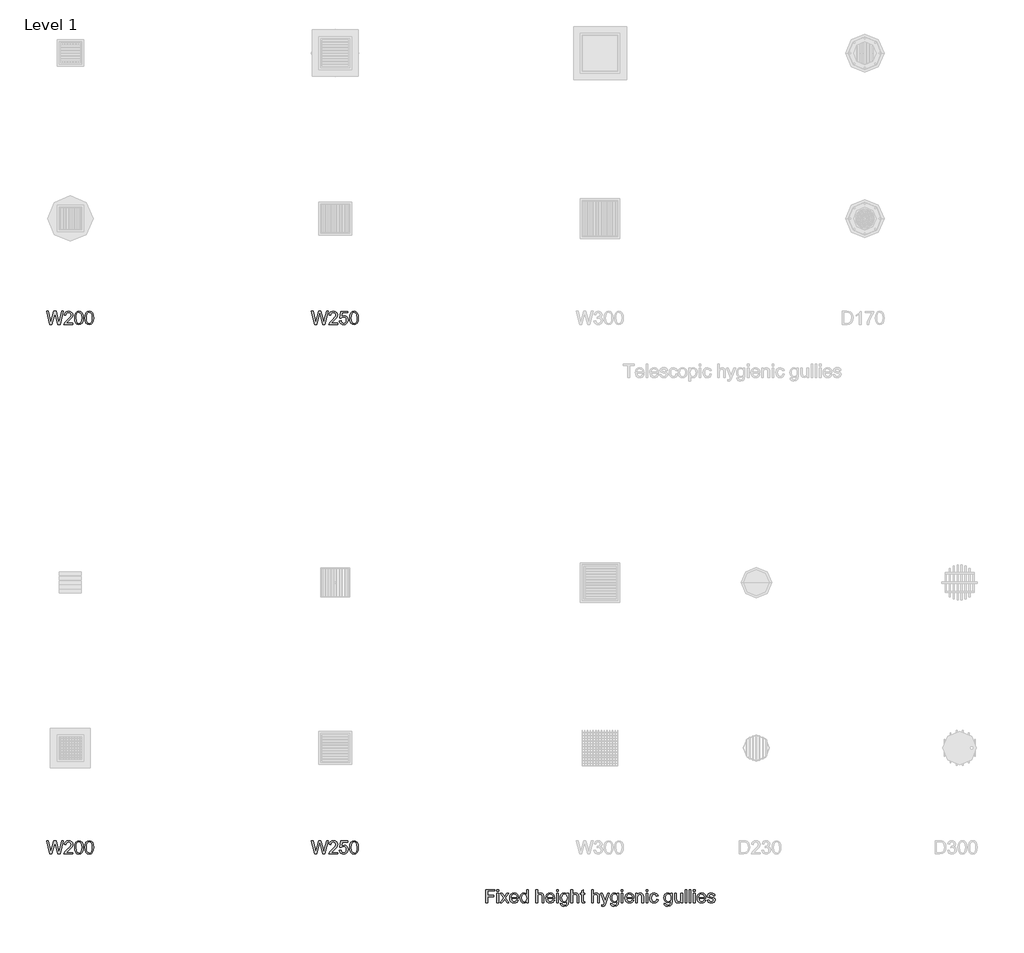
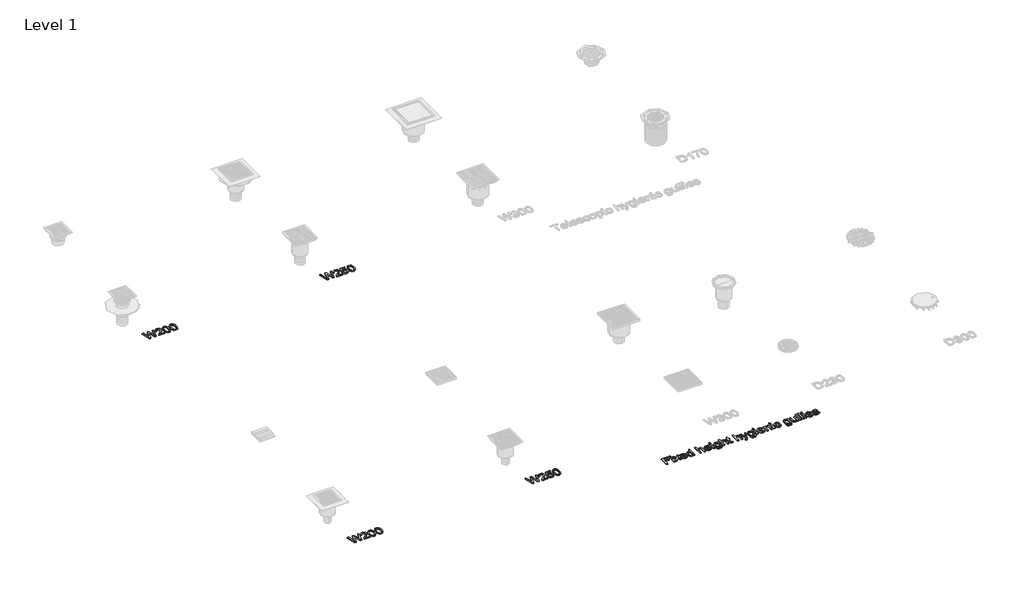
# One storey, part 2 of 5: 5 proxies.
"""IFC4 building model written with IfcOpenShell, lengths in millimetres."""

from ifc_helpers import new_model, si_unit, origin, origin_with_axes, place, context, project, spatial, polyline, outline, extrude, element, save

model = new_model("IFC4")

# Units and contexts
model_context = context("Model", 3, world=origin())
ifc_project = project(units=[si_unit("LENGTHUNIT", "METRE", prefix="MILLI")], contexts=[model_context])

# Site, building, storey
site = spatial("IfcSite", under=ifc_project)
building = spatial("IfcBuilding", under=site)
storey = spatial("IfcBuildingStorey", under=building, Name="Level 1", Elevation=0.0)

# Proxies
placement = place(None, origin())
element("IfcBuildingElementProxy", 1, Name="100mm ACO", ObjectType="100mm ACO", at=placement, inside=storey, context=model_context, shape_type="SweptSolid", body=[
    extrude(outline(polyline([(-795.3703704, -6880.4284145), (-849.0740741, -6880.4284145), (-849.0740741, -6911.909896), (-802.7777778, -6911.909896), (-802.7777778, -6923.0210071), (-849.0740741, -6923.0210071), (-849.0740741, -6969.3173034), (-862.037037, -6969.3173034), (-862.037037, -6869.3173034), (-795.3703704, -6869.3173034), (-795.3703704, -6880.4284145)])), origin_with_axes(), (0.0, 0.0, 1.0), 10.0),
    extrude(outline(polyline([(-765.7407407, -6969.3173034), (-778.7037037, -6969.3173034), (-778.7037037, -6897.0950812), (-765.7407407, -6897.0950812), (-765.7407407, -6969.3173034)])), origin_with_axes(), (0.0, 0.0, 1.0), 10.0),
    extrude(outline(polyline([(-765.7407407, -6882.2802664), (-778.7037037, -6882.2802664), (-778.7037037, -6869.3173034), (-765.7407407, -6869.3173034), (-765.7407407, -6882.2802664)])), origin_with_axes(), (0.0, 0.0, 1.0), 10.0),
    extrude(outline(polyline([(-687.962963, -6969.3173034), (-701.0127315, -6969.3173034), (-721.2673611, -6941.0186923), (-741.5219907, -6969.3173034), (-754.6296296, -6969.3173034), (-727.8645833, -6931.904109), (-752.7777778, -6897.0950812), (-739.7280093, -6897.0950812), (-721.3252315, -6922.7605905), (-702.9513889, -6897.0950812), (-689.8148148, -6897.0950812), (-714.7569444, -6931.9330442), (-687.962963, -6969.3173034)])), origin_with_axes(), (0.0, 0.0, 1.0), 10.0),
    extrude(outline(polyline([(-615.7407407, -6935.9839701), (-669.4444444, -6935.9839701), (-667.3719618, -6947.1095488), (-662.6591435, -6955.2548034), (-655.8774595, -6960.2461229), (-647.5983796, -6961.909896), (-635.9230324, -6958.2206599), (-628.7037037, -6947.0950812), (-615.7407407, -6948.5997108), (-620.1171875, -6958.2206599), (-627.0543981, -6965.3242479), (-636.2991898, -6969.7079284), (-647.5983796, -6971.1691553), (-662.1853299, -6968.6626449), (-673.1915509, -6961.1431136), (-680.1034433, -6949.2833046), (-682.4074074, -6933.7559608), (-680.1866319, -6918.2177664), (-673.5243056, -6905.9203127), (-662.8255208, -6897.9125002), (-648.4953704, -6895.2432293), (-633.275463, -6898.700984), (-620.8478009, -6910.4776043), (-617.0175058, -6921.0136287), (-615.7407407, -6935.9839701)]), holes=[polyline([(-628.7037037, -6926.7247108), (-630.787037, -6916.5684608), (-635.5324074, -6909.7108219), (-648.8136574, -6904.5024886), (-656.6695602, -6906.050521), (-662.9918981, -6910.6946182), (-669.4444444, -6926.7247108), (-628.7037037, -6926.7247108)])]), origin_with_axes(), (0.0, 0.0, 1.0), 10.0),
    extrude(outline(polyline([(-541.6666667, -6969.3173034), (-554.6296296, -6969.3173034), (-554.6296296, -6961.1575812), (-562.9846644, -6968.6662618), (-574.3634259, -6971.1691553), (-586.2304688, -6968.5288196), (-595.9635417, -6960.6078127), (-602.4631076, -6948.4767363), (-604.6296296, -6933.2061923), (-602.5535301, -6917.4654516), (-596.3252315, -6905.4284145), (-586.6898148, -6897.7895256), (-574.3923611, -6895.2432293), (-563.1076389, -6897.529109), (-554.8900463, -6904.3867479), (-554.6296296, -6869.3173034), (-541.6666667, -6869.3173034), (-541.6666667, -6969.3173034)]), holes=[polyline([(-572.8587963, -6961.909896), (-565.8058449, -6960.2027201), (-559.9247685, -6955.0811923), (-555.9534144, -6946.4874423), (-554.6296296, -6934.3635997), (-559.4762731, -6912.6043405), (-565.375434, -6906.5279516), (-573.3796296, -6904.5024886), (-581.3259549, -6906.4845488), (-587.0515046, -6912.4307293), (-591.6666667, -6933.2351275), (-589.1782407, -6948.9903358), (-582.2337963, -6958.6691553), (-572.8587963, -6961.909896)])]), origin_with_axes(), (0.0, 0.0, 1.0), 10.0),
    extrude(outline(polyline([(-425.0, -6969.3173034), (-437.962963, -6969.3173034), (-437.962963, -6922.6159145), (-441.6521991, -6909.0308451), (-452.662037, -6904.5024886), (-465.5960648, -6909.8410303), (-469.8712384, -6917.273756), (-471.2962963, -6928.8948497), (-471.2962963, -6969.3173034), (-484.2592593, -6969.3173034), (-484.2592593, -6869.3173034), (-471.2962963, -6869.3173034), (-471.2962963, -6905.1390627), (-461.5957755, -6897.7171877), (-449.7395833, -6895.2432293), (-436.4583333, -6898.1078127), (-427.5607639, -6906.9185766), (-425.0, -6923.4260997), (-425.0, -6969.3173034)])), origin_with_axes(), (0.0, 0.0, 1.0), 10.0),
    extrude(outline(polyline([(-343.5185185, -6935.9839701), (-397.2222222, -6935.9839701), (-395.1497396, -6947.1095488), (-390.4369213, -6955.2548034), (-383.6552373, -6960.2461229), (-375.3761574, -6961.909896), (-363.7008102, -6958.2206599), (-356.4814815, -6947.0950812), (-343.5185185, -6948.5997108), (-347.8949653, -6958.2206599), (-354.8321759, -6965.3242479), (-364.0769676, -6969.7079284), (-375.3761574, -6971.1691553), (-389.9631076, -6968.6626449), (-400.9693287, -6961.1431136), (-407.8812211, -6949.2833046), (-410.1851852, -6933.7559608), (-407.9644097, -6918.2177664), (-401.3020833, -6905.9203127), (-390.6032986, -6897.9125002), (-376.2731481, -6895.2432293), (-361.0532407, -6898.700984), (-348.6255787, -6910.4776043), (-344.7952836, -6921.0136287), (-343.5185185, -6935.9839701)]), holes=[polyline([(-356.4814815, -6926.7247108), (-358.5648148, -6916.5684608), (-363.3101852, -6909.7108219), (-376.5914352, -6904.5024886), (-384.447338, -6906.050521), (-390.7696759, -6910.6946182), (-397.2222222, -6926.7247108), (-356.4814815, -6926.7247108)])]), origin_with_axes(), (0.0, 0.0, 1.0), 10.0),
    extrude(outline(polyline([(-315.7407407, -6969.3173034), (-328.7037037, -6969.3173034), (-328.7037037, -6897.0950812), (-315.7407407, -6897.0950812), (-315.7407407, -6969.3173034)])), origin_with_axes(), (0.0, 0.0, 1.0), 10.0),
    extrude(outline(polyline([(-315.7407407, -6882.2802664), (-328.7037037, -6882.2802664), (-328.7037037, -6869.3173034), (-315.7407407, -6869.3173034), (-315.7407407, -6882.2802664)])), origin_with_axes(), (0.0, 0.0, 1.0), 10.0),
    extrude(outline(polyline([(-237.962963, -6958.6691553), (-241.015625, -6981.3109377), (-251.880787, -6992.9428821), (-270.5439815, -6997.0950812), (-281.7599826, -6995.6881078), (-290.9288194, -6991.4671877), (-297.0377604, -6984.0416958), (-299.0740741, -6973.0210071), (-286.1111111, -6975.0754053), (-281.5393519, -6984.638484), (-270.3414352, -6987.8358219), (-257.03125, -6984.1465858), (-251.8663194, -6975.1622108), (-250.9259259, -6960.5499423), (-259.7005208, -6967.1254631), (-270.5150463, -6969.3173034), (-282.9065394, -6966.705903), (-292.5925926, -6958.8717016), (-298.8425926, -6947.0589122), (-300.9259259, -6932.5117479), (-298.9438657, -6917.8705442), (-292.9976852, -6905.8913775), (-283.5503472, -6897.9052664), (-271.0648148, -6895.2432293), (-259.9898727, -6897.6231483), (-251.1863426, -6904.7629053), (-250.9259259, -6897.0950812), (-237.962963, -6897.0950812), (-237.962963, -6958.6691553)]), holes=[polyline([(-268.5763889, -6960.0580442), (-261.364294, -6958.4521414), (-255.005787, -6953.634433), (-250.5570023, -6945.040683), (-249.0740741, -6932.1066553), (-250.4882813, -6920.3191842), (-254.7309028, -6911.6350118), (-261.0568576, -6906.2856194), (-268.7210648, -6904.5024886), (-276.4431424, -6906.3290222), (-282.5954861, -6911.8086229), (-286.6210938, -6920.4638601), (-287.962963, -6931.8173034), (-286.5559896, -6944.5343173), (-282.3350694, -6953.2872108), (-276.0814525, -6958.3653358), (-268.5763889, -6960.0580442)])]), origin_with_axes(), (0.0, 0.0, 1.0), 10.0),
    extrude(outline(polyline([(-160.1851852, -6969.3173034), (-173.1481481, -6969.3173034), (-173.1481481, -6922.6159145), (-176.8373843, -6909.0308451), (-187.8472222, -6904.5024886), (-200.78125, -6909.8410303), (-205.0564236, -6917.273756), (-206.4814815, -6928.8948497), (-206.4814815, -6969.3173034), (-219.4444444, -6969.3173034), (-219.4444444, -6869.3173034), (-206.4814815, -6869.3173034), (-206.4814815, -6905.1390627), (-196.7809606, -6897.7171877), (-184.9247685, -6895.2432293), (-171.6435185, -6898.1078127), (-162.7459491, -6906.9185766), (-160.1851852, -6923.4260997), (-160.1851852, -6969.3173034)])), origin_with_axes(), (0.0, 0.0, 1.0), 10.0),
    extrude(outline(polyline([(-113.8888889, -6970.3300349), (-122.974537, -6971.1691553), (-134.5630787, -6968.2901043), (-139.0046296, -6960.9839701), (-139.8148148, -6948.6575812), (-139.8148148, -6906.3543405), (-149.0740741, -6906.3543405), (-149.0740741, -6897.0950812), (-139.8148148, -6897.0950812), (-139.8148148, -6878.7501738), (-126.8518519, -6871.1691553), (-126.8518519, -6897.0950812), (-115.7407407, -6897.0950812), (-115.7407407, -6906.3543405), (-126.8518519, -6906.3543405), (-126.8518519, -6951.2617479), (-125.8101852, -6959.4793405), (-120.5150463, -6961.909896), (-115.4803241, -6961.909896), (-113.8888889, -6970.3300349)])), origin_with_axes(), (0.0, 0.0, 1.0), 10.0),
    extrude(outline(polyline([(-4.6296296, -6969.3173034), (-17.5925926, -6969.3173034), (-17.5925926, -6922.6159145), (-21.2818287, -6909.0308451), (-32.2916667, -6904.5024886), (-45.2256944, -6909.8410303), (-49.5008681, -6917.273756), (-50.9259259, -6928.8948497), (-50.9259259, -6969.3173034), (-63.8888889, -6969.3173034), (-63.8888889, -6869.3173034), (-50.9259259, -6869.3173034), (-50.9259259, -6905.1390627), (-41.2254051, -6897.7171877), (-29.369213, -6895.2432293), (-16.087963, -6898.1078127), (-7.1903935, -6906.9185766), (-4.6296296, -6923.4260997), (-4.6296296, -6969.3173034)])), origin_with_axes(), (0.0, 0.0, 1.0), 10.0),
    extrude(outline(polyline([(71.2962963, -6897.0950812), (44.1261574, -6971.2559608), (35.083912, -6990.5991321), (28.9966725, -6995.4710939), (20.775463, -6997.0950812), (13.1944444, -6995.9376738), (12.037037, -6985.9839701), (18.5763889, -6987.8358219), (27.4305556, -6983.8717016), (33.3043981, -6970.3879053), (6.4814815, -6897.0950812), (18.2002315, -6897.0950812), (35.8217593, -6943.1888312), (39.1493056, -6954.1263312), (44.068287, -6940.4399886), (59.6064815, -6897.0950812), (71.2962963, -6897.0950812)])), origin_with_axes(), (0.0, 0.0, 1.0), 10.0),
    extrude(outline(polyline([(141.6666667, -6958.6691553), (138.6140046, -6981.3109377), (127.7488426, -6992.9428821), (109.0856481, -6997.0950812), (97.869647, -6995.6881078), (88.7008102, -6991.4671877), (82.5918692, -6984.0416958), (80.5555556, -6973.0210071), (93.5185185, -6975.0754053), (98.0902778, -6984.638484), (109.2881944, -6987.8358219), (122.5983796, -6984.1465858), (127.7633102, -6975.1622108), (128.7037037, -6960.5499423), (119.9291088, -6967.1254631), (109.1145833, -6969.3173034), (96.7230903, -6966.705903), (87.037037, -6958.8717016), (80.787037, -6947.0589122), (78.7037037, -6932.5117479), (80.6857639, -6917.8705442), (86.6319444, -6905.8913775), (96.0792824, -6897.9052664), (108.5648148, -6895.2432293), (119.6397569, -6897.6231483), (128.443287, -6904.7629053), (128.7037037, -6897.0950812), (141.6666667, -6897.0950812), (141.6666667, -6958.6691553)]), holes=[polyline([(111.0532407, -6960.0580442), (118.2653356, -6958.4521414), (124.6238426, -6953.634433), (129.0726273, -6945.040683), (130.5555556, -6932.1066553), (129.1413484, -6920.3191842), (124.8987269, -6911.6350118), (118.572772, -6906.2856194), (110.9085648, -6904.5024886), (103.1864873, -6906.3290222), (97.0341435, -6911.8086229), (93.0085359, -6920.4638601), (91.6666667, -6931.8173034), (93.07364, -6944.5343173), (97.2945602, -6953.2872108), (103.5481771, -6958.3653358), (111.0532407, -6960.0580442)])]), origin_with_axes(), (0.0, 0.0, 1.0), 10.0),
    extrude(outline(polyline([(173.1481481, -6969.3173034), (160.1851852, -6969.3173034), (160.1851852, -6897.0950812), (173.1481481, -6897.0950812), (173.1481481, -6969.3173034)])), origin_with_axes(), (0.0, 0.0, 1.0), 10.0),
    extrude(outline(polyline([(173.1481481, -6882.2802664), (160.1851852, -6882.2802664), (160.1851852, -6869.3173034), (173.1481481, -6869.3173034), (173.1481481, -6882.2802664)])), origin_with_axes(), (0.0, 0.0, 1.0), 10.0),
    extrude(outline(polyline([(254.6296296, -6935.9839701), (200.9259259, -6935.9839701), (202.9984086, -6947.1095488), (207.7112269, -6955.2548034), (214.4929109, -6960.2461229), (222.7719907, -6961.909896), (234.447338, -6958.2206599), (241.6666667, -6947.0950812), (254.6296296, -6948.5997108), (250.2531829, -6958.2206599), (243.3159722, -6965.3242479), (234.0711806, -6969.7079284), (222.7719907, -6971.1691553), (208.1850405, -6968.6626449), (197.1788194, -6961.1431136), (190.2669271, -6949.2833046), (187.962963, -6933.7559608), (190.1837384, -6918.2177664), (196.8460648, -6905.9203127), (207.5448495, -6897.9125002), (221.875, -6895.2432293), (237.0949074, -6898.700984), (249.5225694, -6910.4776043), (253.3528646, -6921.0136287), (254.6296296, -6935.9839701)]), holes=[polyline([(241.6666667, -6926.7247108), (239.5833333, -6916.5684608), (234.837963, -6909.7108219), (221.556713, -6904.5024886), (213.7008102, -6906.050521), (207.3784722, -6910.6946182), (200.9259259, -6926.7247108), (241.6666667, -6926.7247108)])]), origin_with_axes(), (0.0, 0.0, 1.0), 10.0),
    extrude(outline(polyline([(328.7037037, -6969.3173034), (315.7407407, -6969.3173034), (315.7407407, -6924.3520256), (311.8778935, -6908.7559608), (301.1284722, -6904.5024886), (291.1024306, -6907.222396), (284.3894676, -6914.8902201), (282.4074074, -6928.8948497), (282.4074074, -6969.3173034), (269.4444444, -6969.3173034), (269.4444444, -6897.0950812), (280.5555556, -6897.0950812), (280.5555556, -6907.1355905), (290.4513889, -6898.2090858), (303.7037037, -6895.2432293), (315.0752315, -6897.2976275), (323.8715278, -6903.4463543), (327.8790509, -6912.1847803), (328.7037037, -6924.728183), (328.7037037, -6969.3173034)])), origin_with_axes(), (0.0, 0.0, 1.0), 10.0),
    extrude(outline(polyline([(360.1851852, -6969.3173034), (347.2222222, -6969.3173034), (347.2222222, -6897.0950812), (360.1851852, -6897.0950812), (360.1851852, -6969.3173034)])), origin_with_axes(), (0.0, 0.0, 1.0), 10.0),
    extrude(outline(polyline([(360.1851852, -6882.2802664), (347.2222222, -6882.2802664), (347.2222222, -6869.3173034), (360.1851852, -6869.3173034), (360.1851852, -6882.2802664)])), origin_with_axes(), (0.0, 0.0, 1.0), 10.0),
    extrude(outline(polyline([(439.8148148, -6944.8670719), (435.7855903, -6956.6726275), (428.6168981, -6964.8323497), (419.2925347, -6969.5849539), (408.7962963, -6971.1691553), (394.4806134, -6968.5794562), (383.8252315, -6960.810359), (377.2063079, -6948.7660881), (375.0, -6933.3508682), (380.0347222, -6910.665683), (392.6359954, -6898.700984), (408.5358796, -6895.2432293), (427.9947917, -6900.900058), (434.5305266, -6907.8842884), (437.962963, -6917.5233219), (425.0, -6919.3173034), (419.0972222, -6908.2206599), (408.6805556, -6904.5024886), (399.7251157, -6906.3868925), (393.2291667, -6912.0401043), (389.2795139, -6921.071499), (387.962963, -6933.0904516), (389.2831308, -6945.3191842), (393.2436343, -6954.4012155), (399.6925637, -6960.0327259), (408.4780093, -6961.909896), (421.0792824, -6957.2802664), (426.8518519, -6943.3913775), (439.8148148, -6944.8670719)])), origin_with_axes(), (0.0, 0.0, 1.0), 10.0),
    extrude(outline(polyline([(545.3703704, -6958.6691553), (542.3177083, -6981.3109377), (531.4525463, -6992.9428821), (512.7893519, -6997.0950812), (501.5733507, -6995.6881078), (492.4045139, -6991.4671877), (486.2955729, -6984.0416958), (484.2592593, -6973.0210071), (497.2222222, -6975.0754053), (501.7939815, -6984.638484), (512.9918981, -6987.8358219), (526.3020833, -6984.1465858), (531.4670139, -6975.1622108), (532.4074074, -6960.5499423), (523.6328125, -6967.1254631), (512.818287, -6969.3173034), (500.426794, -6966.705903), (490.7407407, -6958.8717016), (484.4907407, -6947.0589122), (482.4074074, -6932.5117479), (484.3894676, -6917.8705442), (490.3356481, -6905.8913775), (499.7829861, -6897.9052664), (512.2685185, -6895.2432293), (523.3434606, -6897.6231483), (532.1469907, -6904.7629053), (532.4074074, -6897.0950812), (545.3703704, -6897.0950812), (545.3703704, -6958.6691553)]), holes=[polyline([(514.7569444, -6960.0580442), (521.9690394, -6958.4521414), (528.3275463, -6953.634433), (532.776331, -6945.040683), (534.2592593, -6932.1066553), (532.8450521, -6920.3191842), (528.6024306, -6911.6350118), (522.2764757, -6906.2856194), (514.6122685, -6904.5024886), (506.890191, -6906.3290222), (500.7378472, -6911.8086229), (496.7122396, -6920.4638601), (495.3703704, -6931.8173034), (496.7773437, -6944.5343173), (500.9982639, -6953.2872108), (507.2518808, -6958.3653358), (514.7569444, -6960.0580442)])]), origin_with_axes(), (0.0, 0.0, 1.0), 10.0),
    extrude(outline(polyline([(623.1481481, -6969.3173034), (612.037037, -6969.3173034), (612.037037, -6958.8138312), (601.7939815, -6968.0803243), (588.8310185, -6971.1691553), (574.7106481, -6967.6535303), (566.0590278, -6957.9747108), (563.8888889, -6941.9735534), (563.8888889, -6897.0950812), (576.8518519, -6897.0950812), (576.8518519, -6938.0673034), (577.7488426, -6952.1587386), (582.4363426, -6959.1610534), (591.4641204, -6961.909896), (604.2100694, -6956.9909145), (608.6914062, -6949.4388312), (610.1851852, -6936.6205442), (610.1851852, -6897.0950812), (623.1481481, -6897.0950812), (623.1481481, -6969.3173034)])), origin_with_axes(), (0.0, 0.0, 1.0), 10.0),
    extrude(outline(polyline([(654.6296296, -6969.3173034), (641.6666667, -6969.3173034), (641.6666667, -6869.3173034), (654.6296296, -6869.3173034), (654.6296296, -6969.3173034)])), origin_with_axes(), (0.0, 0.0, 1.0), 10.0),
    extrude(outline(polyline([(686.1111111, -6969.3173034), (673.1481481, -6969.3173034), (673.1481481, -6869.3173034), (686.1111111, -6869.3173034), (686.1111111, -6969.3173034)])), origin_with_axes(), (0.0, 0.0, 1.0), 10.0),
    extrude(outline(polyline([(717.5925926, -6882.2802664), (704.6296296, -6882.2802664), (704.6296296, -6869.3173034), (717.5925926, -6869.3173034), (717.5925926, -6882.2802664)])), origin_with_axes(), (0.0, 0.0, 1.0), 10.0),
    extrude(outline(polyline([(717.5925926, -6969.3173034), (704.6296296, -6969.3173034), (704.6296296, -6897.0950812), (717.5925926, -6897.0950812), (717.5925926, -6969.3173034)])), origin_with_axes(), (0.0, 0.0, 1.0), 10.0),
    extrude(outline(polyline([(799.0740741, -6935.9839701), (745.3703704, -6935.9839701), (747.442853, -6947.1095488), (752.1556713, -6955.2548034), (758.9373553, -6960.2461229), (767.2164352, -6961.909896), (778.8917824, -6958.2206599), (786.1111111, -6947.0950812), (799.0740741, -6948.5997108), (794.6976273, -6958.2206599), (787.7604167, -6965.3242479), (778.515625, -6969.7079284), (767.2164352, -6971.1691553), (752.629485, -6968.6626449), (741.6232639, -6961.1431136), (734.7113715, -6949.2833046), (732.4074074, -6933.7559608), (734.6281829, -6918.2177664), (741.2905093, -6905.9203127), (751.989294, -6897.9125002), (766.3194444, -6895.2432293), (781.5393519, -6898.700984), (793.9670139, -6910.4776043), (797.797309, -6921.0136287), (799.0740741, -6935.9839701)]), holes=[polyline([(786.1111111, -6926.7247108), (784.0277778, -6916.5684608), (779.2824074, -6909.7108219), (766.0011574, -6904.5024886), (758.1452546, -6906.050521), (751.8229167, -6910.6946182), (745.3703704, -6926.7247108), (786.1111111, -6926.7247108)])]), origin_with_axes(), (0.0, 0.0, 1.0), 10.0),
    extrude(outline(polyline([(854.6296296, -6917.4654516), (849.8408565, -6907.7432293), (838.7731481, -6904.5024886), (827.4594907, -6907.2802664), (823.1481481, -6915.353183), (825.9982639, -6922.5001738), (839.4386574, -6926.3774886), (857.1614583, -6930.5441553), (866.2037037, -6936.8664932), (869.4444444, -6948.1946182), (867.4334491, -6957.1247398), (861.400463, -6964.5285303), (852.0037616, -6969.508999), (839.9016204, -6971.1691553), (827.4269387, -6969.7730326), (818.0121528, -6965.5846645), (811.6500289, -6958.6112849), (808.3333333, -6948.8601275), (821.2962963, -6947.0950812), (826.8952546, -6958.2206599), (839.9016204, -6961.909896), (852.1990741, -6958.075984), (856.4814815, -6948.7443868), (854.5572917, -6942.769271), (849.7540509, -6939.3983219), (836.1689815, -6936.5048034), (815.234375, -6928.6923034), (810.1851852, -6916.1054979), (812.0551215, -6907.8191842), (817.6649306, -6901.1315395), (826.4359086, -6896.7153069), (837.7893519, -6895.2432293), (849.7214988, -6896.5308451), (858.666088, -6900.3936923), (864.6231192, -6906.8245372), (867.5925926, -6915.816146), (854.6296296, -6917.4654516)])), origin_with_axes(), (0.0, 0.0, 1.0), 10.0),
])
element("IfcBuildingElementProxy", 2, Name="100mm ACO", ObjectType="100mm ACO", at=placement, inside=storey, context=model_context, shape_type="SweptSolid", body=[
    extrude(outline(polyline([(-4051.8518519, -6500.0), (-4078.0092593, -6600.0), (-4093.8657407, -6600.0), (-4113.744213, -6521.1516204), (-4115.7407407, -6511.9502315), (-4118.75, -6523.8136574), (-4139.6990741, -6600.0), (-4153.587963, -6600.0), (-4179.6296296, -6500.0), (-4166.3194444, -6500.0), (-4151.1863426, -6565.6828704), (-4147.3668981, -6584.6643519), (-4142.7083333, -6567.505787), (-4123.8425926, -6500.0), (-4107.494213, -6500.0), (-4093.8078704, -6550.6076389), (-4086.3715278, -6586.1111111), (-4081.25, -6564.3229167), (-4065.2199074, -6500.0), (-4051.8518519, -6500.0)])), origin_with_axes(), (0.0, 0.0, 1.0), 10.0),
    extrude(outline(polyline([(-3981.4814815, -6600.0), (-4048.1481481, -6600.0), (-4042.1875, -6584.4039352), (-4020.1678241, -6562.7893519), (-4002.4016204, -6545.4571759), (-3996.4337384, -6536.4293981), (-3994.4444444, -6527.34375), (-3999.8697917, -6514.380787), (-4013.5706019, -6509.2592593), (-4027.6041667, -6514.3663194), (-4031.8721065, -6520.7356771), (-4033.3333333, -6529.6296296), (-4046.2962963, -6528.2407407), (-4043.1568287, -6516.1385995), (-4036.1111111, -6507.2627315), (-4025.8969907, -6501.8156829), (-4013.2523148, -6500.0), (-3999.89511, -6502.0869502), (-3989.8582176, -6508.3478009), (-3983.5756655, -6517.5600405), (-3981.4814815, -6528.5011574), (-3983.2320602, -6538.4042245), (-3988.4837963, -6548.4375), (-4015.9143519, -6575.9548611), (-4031.4814815, -6590.7407407), (-3981.4814815, -6590.7407407), (-3981.4814815, -6600.0)])), origin_with_axes(), (0.0, 0.0, 1.0), 10.0),
    extrude(outline(polyline([(-3935.2141204, -6500.0), (-3920.6181279, -6503.1864873), (-3910.192419, -6512.7459491), (-3903.9369936, -6528.6783854), (-3901.8518519, -6550.9837963), (-3904.0075231, -6573.4555845), (-3910.474537, -6589.3084491), (-3920.9707755, -6598.7160012), (-3935.2141204, -6601.8518519), (-3949.7847946, -6598.6725984), (-3960.192419, -6589.134838), (-3966.4369936, -6573.2385706), (-3968.5185185, -6550.9837963), (-3966.3628472, -6528.515625), (-3959.8958333, -6512.6157407), (-3949.4140625, -6503.1539352), (-3935.2141204, -6500.0)]), holes=[polyline([(-3935.1851852, -6592.5925926), (-3926.3454861, -6590.1584201), (-3919.9652778, -6582.8559028), (-3916.1024306, -6570.0195312), (-3914.8148148, -6550.9837963), (-3917.0717593, -6526.7650463), (-3923.8859954, -6513.599537), (-3935.3298611, -6509.2592593), (-3944.1514757, -6511.7368345), (-3950.4774306, -6519.1695602), (-3954.2860243, -6532.0782697), (-3955.5555556, -6550.9837963), (-3953.2552083, -6575.0434028), (-3946.4409722, -6588.2523148), (-3935.1851852, -6592.5925926)])]), origin_with_axes(), (0.0, 0.0, 1.0), 10.0),
    extrude(outline(polyline([(-3857.4363426, -6500.0), (-3842.8403501, -6503.1864873), (-3832.4146412, -6512.7459491), (-3826.1592159, -6528.6783854), (-3824.0740741, -6550.9837963), (-3826.2297454, -6573.4555845), (-3832.6967593, -6589.3084491), (-3843.1929977, -6598.7160012), (-3857.4363426, -6601.8518519), (-3872.0070168, -6598.6725984), (-3882.4146412, -6589.134838), (-3888.6592159, -6573.2385706), (-3890.7407407, -6550.9837963), (-3888.5850694, -6528.515625), (-3882.1180556, -6512.6157407), (-3871.6362847, -6503.1539352), (-3857.4363426, -6500.0)]), holes=[polyline([(-3857.4074074, -6592.5925926), (-3848.5677083, -6590.1584201), (-3842.1875, -6582.8559028), (-3838.3246528, -6570.0195312), (-3837.037037, -6550.9837963), (-3839.2939815, -6526.7650463), (-3846.1082176, -6513.599537), (-3857.5520833, -6509.2592593), (-3866.3736979, -6511.7368345), (-3872.6996528, -6519.1695602), (-3876.5082465, -6532.0782697), (-3877.7777778, -6550.9837963), (-3875.4774306, -6575.0434028), (-3868.6631944, -6588.2523148), (-3857.4074074, -6592.5925926)])]), origin_with_axes(), (0.0, 0.0, 1.0), 10.0),
])
element("IfcBuildingElementProxy", 3, Name="100mm ACO", ObjectType="100mm ACO", at=placement, inside=storey, context=model_context, shape_type="SweptSolid", body=[
    extrude(outline(polyline([(-2051.8518519, -6500.0), (-2078.0092593, -6600.0), (-2093.8657407, -6600.0), (-2113.744213, -6521.1516204), (-2115.7407407, -6511.9502315), (-2118.75, -6523.8136574), (-2139.6990741, -6600.0), (-2153.587963, -6600.0), (-2179.6296296, -6500.0), (-2166.3194444, -6500.0), (-2151.1863426, -6565.6828704), (-2147.3668981, -6584.6643519), (-2142.7083333, -6567.505787), (-2123.8425926, -6500.0), (-2107.494213, -6500.0), (-2093.8078704, -6550.6076389), (-2086.3715278, -6586.1111111), (-2081.25, -6564.3229167), (-2065.2199074, -6500.0), (-2051.8518519, -6500.0)])), origin_with_axes(), (0.0, 0.0, 1.0), 10.0),
    extrude(outline(polyline([(-1981.4814815, -6600.0), (-2048.1481481, -6600.0), (-2042.1875, -6584.4039352), (-2020.1678241, -6562.7893519), (-2002.4016204, -6545.4571759), (-1996.4337384, -6536.4293981), (-1994.4444444, -6527.34375), (-1999.8697917, -6514.380787), (-2013.5706019, -6509.2592593), (-2027.6041667, -6514.3663194), (-2031.8721065, -6520.7356771), (-2033.3333333, -6529.6296296), (-2046.2962963, -6528.2407407), (-2043.1568287, -6516.1385995), (-2036.1111111, -6507.2627315), (-2025.8969907, -6501.8156829), (-2013.2523148, -6500.0), (-1999.89511, -6502.0869502), (-1989.8582176, -6508.3478009), (-1983.5756655, -6517.5600405), (-1981.4814815, -6528.5011574), (-1983.2320602, -6538.4042245), (-1988.4837963, -6548.4375), (-2015.9143519, -6575.9548611), (-2031.4814815, -6590.7407407), (-1981.4814815, -6590.7407407), (-1981.4814815, -6600.0)])), origin_with_axes(), (0.0, 0.0, 1.0), 10.0),
    extrude(outline(polyline([(-1951.0416667, -6537.8761574), (-1932.3784722, -6533.3333333), (-1920.8948206, -6535.5577257), (-1910.9809028, -6542.2309028), (-1904.1341146, -6552.6077836), (-1901.8518519, -6565.943287), (-1904.2209201, -6579.7815394), (-1911.328125, -6591.3773148), (-1922.2764757, -6599.2332176), (-1936.1689815, -6601.8518519), (-1947.9094329, -6600.0434028), (-1957.9571759, -6594.6180556), (-1965.198206, -6585.6481481), (-1968.5185185, -6573.2060185), (-1955.5555556, -6572.2222222), (-1948.7847222, -6587.5434028), (-1936.0243056, -6592.5925926), (-1927.4594907, -6590.7190394), (-1920.6886574, -6585.0983796), (-1916.2832755, -6576.7361111), (-1914.8148148, -6566.6377315), (-1916.2868924, -6556.6695602), (-1920.703125, -6549.0451389), (-1927.4341725, -6544.2057292), (-1935.8506944, -6542.5925926), (-1946.1877894, -6544.9435764), (-1953.8194444, -6551.9965278), (-1966.6666667, -6550.4918981), (-1956.9733796, -6501.8518519), (-1905.5555556, -6501.8518519), (-1905.5555556, -6511.1111111), (-1945.6886574, -6511.1111111), (-1951.0416667, -6537.8761574)])), origin_with_axes(), (0.0, 0.0, 1.0), 10.0),
    extrude(outline(polyline([(-1857.4363426, -6500.0), (-1842.8403501, -6503.1864873), (-1832.4146412, -6512.7459491), (-1826.1592159, -6528.6783854), (-1824.0740741, -6550.9837963), (-1826.2297454, -6573.4555845), (-1832.6967593, -6589.3084491), (-1843.1929977, -6598.7160012), (-1857.4363426, -6601.8518519), (-1872.0070168, -6598.6725984), (-1882.4146412, -6589.134838), (-1888.6592159, -6573.2385706), (-1890.7407407, -6550.9837963), (-1888.5850694, -6528.515625), (-1882.1180556, -6512.6157407), (-1871.6362847, -6503.1539352), (-1857.4363426, -6500.0)]), holes=[polyline([(-1857.4074074, -6592.5925926), (-1848.5677083, -6590.1584201), (-1842.1875, -6582.8559028), (-1838.3246528, -6570.0195312), (-1837.037037, -6550.9837963), (-1839.2939815, -6526.7650463), (-1846.1082176, -6513.599537), (-1857.5520833, -6509.2592593), (-1866.3736979, -6511.7368345), (-1872.6996528, -6519.1695602), (-1876.5082465, -6532.0782697), (-1877.7777778, -6550.9837963), (-1875.4774306, -6575.0434028), (-1868.6631944, -6588.2523148), (-1857.4074074, -6592.5925926)])]), origin_with_axes(), (0.0, 0.0, 1.0), 10.0),
])
element("IfcBuildingElementProxy", 4, Name="100mm ACO", ObjectType="100mm ACO", at=placement, inside=storey, context=model_context, shape_type="SweptSolid", body=[
    extrude(outline(polyline([(-4051.8518519, -2500.0), (-4078.0092593, -2600.0), (-4093.8657407, -2600.0), (-4113.744213, -2521.1516204), (-4115.7407407, -2511.9502315), (-4118.75, -2523.8136574), (-4139.6990741, -2600.0), (-4153.587963, -2600.0), (-4179.6296296, -2500.0), (-4166.3194444, -2500.0), (-4151.1863426, -2565.6828704), (-4147.3668981, -2584.6643519), (-4142.7083333, -2567.505787), (-4123.8425926, -2500.0), (-4107.494213, -2500.0), (-4093.8078704, -2550.6076389), (-4086.3715278, -2586.1111111), (-4081.25, -2564.3229167), (-4065.2199074, -2500.0), (-4051.8518519, -2500.0)])), origin_with_axes(), (0.0, 0.0, 1.0), 10.0),
    extrude(outline(polyline([(-3981.4814815, -2600.0), (-4048.1481481, -2600.0), (-4042.1875, -2584.4039352), (-4020.1678241, -2562.7893519), (-4002.4016204, -2545.4571759), (-3996.4337384, -2536.4293981), (-3994.4444444, -2527.34375), (-3999.8697917, -2514.380787), (-4013.5706019, -2509.2592593), (-4027.6041667, -2514.3663194), (-4031.8721065, -2520.7356771), (-4033.3333333, -2529.6296296), (-4046.2962963, -2528.2407407), (-4043.1568287, -2516.1385995), (-4036.1111111, -2507.2627315), (-4025.8969907, -2501.8156829), (-4013.2523148, -2500.0), (-3999.89511, -2502.0869502), (-3989.8582176, -2508.3478009), (-3983.5756655, -2517.5600405), (-3981.4814815, -2528.5011574), (-3983.2320602, -2538.4042245), (-3988.4837963, -2548.4375), (-4015.9143519, -2575.9548611), (-4031.4814815, -2590.7407407), (-3981.4814815, -2590.7407407), (-3981.4814815, -2600.0)])), origin_with_axes(), (0.0, 0.0, 1.0), 10.0),
    extrude(outline(polyline([(-3935.2141204, -2500.0), (-3920.6181279, -2503.1864873), (-3910.192419, -2512.7459491), (-3903.9369936, -2528.6783854), (-3901.8518519, -2550.9837963), (-3904.0075231, -2573.4555845), (-3910.474537, -2589.3084491), (-3920.9707755, -2598.7160012), (-3935.2141204, -2601.8518519), (-3949.7847946, -2598.6725984), (-3960.192419, -2589.134838), (-3966.4369936, -2573.2385706), (-3968.5185185, -2550.9837963), (-3966.3628472, -2528.515625), (-3959.8958333, -2512.6157407), (-3949.4140625, -2503.1539352), (-3935.2141204, -2500.0)]), holes=[polyline([(-3935.1851852, -2592.5925926), (-3926.3454861, -2590.1584201), (-3919.9652778, -2582.8559028), (-3916.1024306, -2570.0195312), (-3914.8148148, -2550.9837963), (-3917.0717593, -2526.7650463), (-3923.8859954, -2513.599537), (-3935.3298611, -2509.2592593), (-3944.1514757, -2511.7368345), (-3950.4774306, -2519.1695602), (-3954.2860243, -2532.0782697), (-3955.5555556, -2550.9837963), (-3953.2552083, -2575.0434028), (-3946.4409722, -2588.2523148), (-3935.1851852, -2592.5925926)])]), origin_with_axes(), (0.0, 0.0, 1.0), 10.0),
    extrude(outline(polyline([(-3857.4363426, -2500.0), (-3842.8403501, -2503.1864873), (-3832.4146412, -2512.7459491), (-3826.1592159, -2528.6783854), (-3824.0740741, -2550.9837963), (-3826.2297454, -2573.4555845), (-3832.6967593, -2589.3084491), (-3843.1929977, -2598.7160012), (-3857.4363426, -2601.8518519), (-3872.0070168, -2598.6725984), (-3882.4146412, -2589.134838), (-3888.6592159, -2573.2385706), (-3890.7407407, -2550.9837963), (-3888.5850694, -2528.515625), (-3882.1180556, -2512.6157407), (-3871.6362847, -2503.1539352), (-3857.4363426, -2500.0)]), holes=[polyline([(-3857.4074074, -2592.5925926), (-3848.5677083, -2590.1584201), (-3842.1875, -2582.8559028), (-3838.3246528, -2570.0195312), (-3837.037037, -2550.9837963), (-3839.2939815, -2526.7650463), (-3846.1082176, -2513.599537), (-3857.5520833, -2509.2592593), (-3866.3736979, -2511.7368345), (-3872.6996528, -2519.1695602), (-3876.5082465, -2532.0782697), (-3877.7777778, -2550.9837963), (-3875.4774306, -2575.0434028), (-3868.6631944, -2588.2523148), (-3857.4074074, -2592.5925926)])]), origin_with_axes(), (0.0, 0.0, 1.0), 10.0),
])
element("IfcBuildingElementProxy", 5, Name="100mm ACO", ObjectType="100mm ACO", at=placement, inside=storey, context=model_context, shape_type="SweptSolid", body=[
    extrude(outline(polyline([(-2051.8518519, -2500.0), (-2078.0092593, -2600.0), (-2093.8657407, -2600.0), (-2113.744213, -2521.1516204), (-2115.7407407, -2511.9502315), (-2118.75, -2523.8136574), (-2139.6990741, -2600.0), (-2153.587963, -2600.0), (-2179.6296296, -2500.0), (-2166.3194444, -2500.0), (-2151.1863426, -2565.6828704), (-2147.3668981, -2584.6643519), (-2142.7083333, -2567.505787), (-2123.8425926, -2500.0), (-2107.494213, -2500.0), (-2093.8078704, -2550.6076389), (-2086.3715278, -2586.1111111), (-2081.25, -2564.3229167), (-2065.2199074, -2500.0), (-2051.8518519, -2500.0)])), origin_with_axes(), (0.0, 0.0, 1.0), 10.0),
    extrude(outline(polyline([(-1981.4814815, -2600.0), (-2048.1481481, -2600.0), (-2042.1875, -2584.4039352), (-2020.1678241, -2562.7893519), (-2002.4016204, -2545.4571759), (-1996.4337384, -2536.4293981), (-1994.4444444, -2527.34375), (-1999.8697917, -2514.380787), (-2013.5706019, -2509.2592593), (-2027.6041667, -2514.3663194), (-2031.8721065, -2520.7356771), (-2033.3333333, -2529.6296296), (-2046.2962963, -2528.2407407), (-2043.1568287, -2516.1385995), (-2036.1111111, -2507.2627315), (-2025.8969907, -2501.8156829), (-2013.2523148, -2500.0), (-1999.89511, -2502.0869502), (-1989.8582176, -2508.3478009), (-1983.5756655, -2517.5600405), (-1981.4814815, -2528.5011574), (-1983.2320602, -2538.4042245), (-1988.4837963, -2548.4375), (-2015.9143519, -2575.9548611), (-2031.4814815, -2590.7407407), (-1981.4814815, -2590.7407407), (-1981.4814815, -2600.0)])), origin_with_axes(), (0.0, 0.0, 1.0), 10.0),
    extrude(outline(polyline([(-1951.0416667, -2537.8761574), (-1932.3784722, -2533.3333333), (-1920.8948206, -2535.5577257), (-1910.9809028, -2542.2309028), (-1904.1341146, -2552.6077836), (-1901.8518519, -2565.943287), (-1904.2209201, -2579.7815394), (-1911.328125, -2591.3773148), (-1922.2764757, -2599.2332176), (-1936.1689815, -2601.8518519), (-1947.9094329, -2600.0434028), (-1957.9571759, -2594.6180556), (-1965.198206, -2585.6481481), (-1968.5185185, -2573.2060185), (-1955.5555556, -2572.2222222), (-1948.7847222, -2587.5434028), (-1936.0243056, -2592.5925926), (-1927.4594907, -2590.7190394), (-1920.6886574, -2585.0983796), (-1916.2832755, -2576.7361111), (-1914.8148148, -2566.6377315), (-1916.2868924, -2556.6695602), (-1920.703125, -2549.0451389), (-1927.4341725, -2544.2057292), (-1935.8506944, -2542.5925926), (-1946.1877894, -2544.9435764), (-1953.8194444, -2551.9965278), (-1966.6666667, -2550.4918981), (-1956.9733796, -2501.8518519), (-1905.5555556, -2501.8518519), (-1905.5555556, -2511.1111111), (-1945.6886574, -2511.1111111), (-1951.0416667, -2537.8761574)])), origin_with_axes(), (0.0, 0.0, 1.0), 10.0),
    extrude(outline(polyline([(-1857.4363426, -2500.0), (-1842.8403501, -2503.1864873), (-1832.4146412, -2512.7459491), (-1826.1592159, -2528.6783854), (-1824.0740741, -2550.9837963), (-1826.2297454, -2573.4555845), (-1832.6967593, -2589.3084491), (-1843.1929977, -2598.7160012), (-1857.4363426, -2601.8518519), (-1872.0070168, -2598.6725984), (-1882.4146412, -2589.134838), (-1888.6592159, -2573.2385706), (-1890.7407407, -2550.9837963), (-1888.5850694, -2528.515625), (-1882.1180556, -2512.6157407), (-1871.6362847, -2503.1539352), (-1857.4363426, -2500.0)]), holes=[polyline([(-1857.4074074, -2592.5925926), (-1848.5677083, -2590.1584201), (-1842.1875, -2582.8559028), (-1838.3246528, -2570.0195312), (-1837.037037, -2550.9837963), (-1839.2939815, -2526.7650463), (-1846.1082176, -2513.599537), (-1857.5520833, -2509.2592593), (-1866.3736979, -2511.7368345), (-1872.6996528, -2519.1695602), (-1876.5082465, -2532.0782697), (-1877.7777778, -2550.9837963), (-1875.4774306, -2575.0434028), (-1868.6631944, -2588.2523148), (-1857.4074074, -2592.5925926)])]), origin_with_axes(), (0.0, 0.0, 1.0), 10.0),
])

save(model, "model.ifc")
